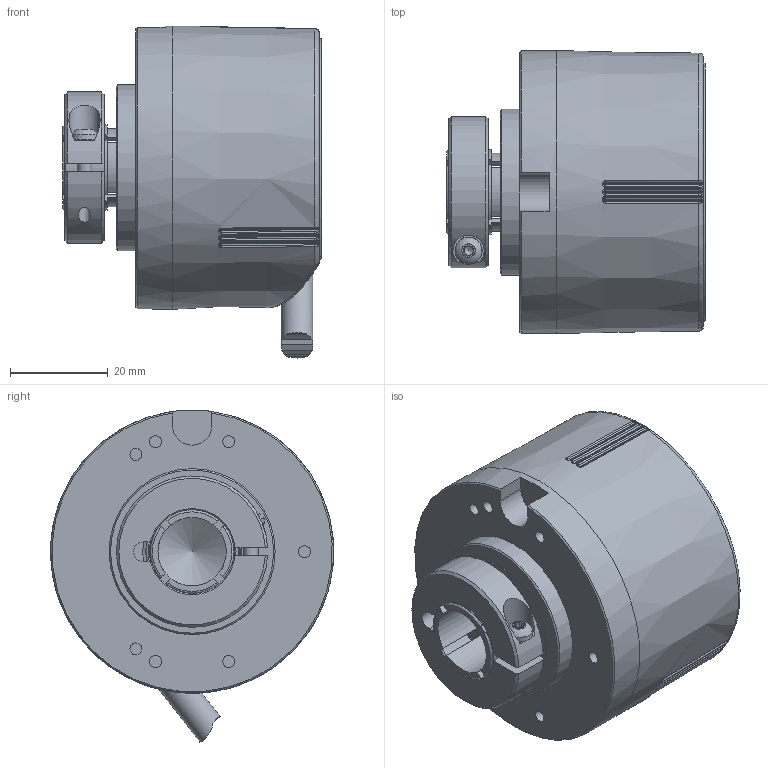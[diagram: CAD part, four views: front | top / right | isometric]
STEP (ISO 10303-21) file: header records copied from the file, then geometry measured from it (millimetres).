
FILE_DESCRIPTION( ( 'Unknown' ), '1' );
FILE_NAME( '//emea.baumernet.org/de05d/RD/caddy/k/GESAMT/EIL580/EIL580/3D/STEP/MarCom/EIL580-BN14.7Px.xxxxx.A.stp', 'Unknown', ( 'Unknown' ), ( 'Unknown' ), 'PSStep 19.0.9', 'Unknown', ' ' );
FILE_SCHEMA( ( 'AUTOMOTIVE_DESIGN { 1 0 10303 214 1 1 1 1 }' ) );
Length unit declared in the file: millimetre
Products named in the file (2): Assem1; 1_46
Assembly tree (1 placements, depth 2):
  Assem1
    1_46
Bounding box: 53 x 57.95 x 67.97 mm (x, y, z)
Volume: 99141.8 mm3; surface area: 21312.5 mm2
Topology: 1 solids, 5 shells, 537 faces, 1305 edges, 779 vertices
Faces by surface type: cylinder 190, plane 120, bspline 118, cone 45, torus 36, sphere 26, revolution 2
Full cylindrical faces by diameter (mm): 2.46 x15, 2.998 x1, 3.2 x1, 4 x1, 5.5 x1, 6.5 x1, 6.97 x2, 7 x1, 7.7 x1, 8.5 x1, 9 x1, 12.2 x1, 14 x1, 16.8 x1, 19 x2, 19.312 x1, 20.262 x1, 20.704 x1, 22 x1, 23.904 x1, 24.927 x1, 25.2 x1, 25.558 x1, 26 x2, 34 x1, 58 x1
Entity records: 55106 total; most frequent: CARTESIAN_POINT 39903, ORIENTED_EDGE 2368, DIRECTION 1970, EDGE_CURVE 1184, AXIS2_PLACEMENT_3D 862, VERTEX_POINT 765, EDGE_LOOP 669, FACE_OUTER_BOUND 596
